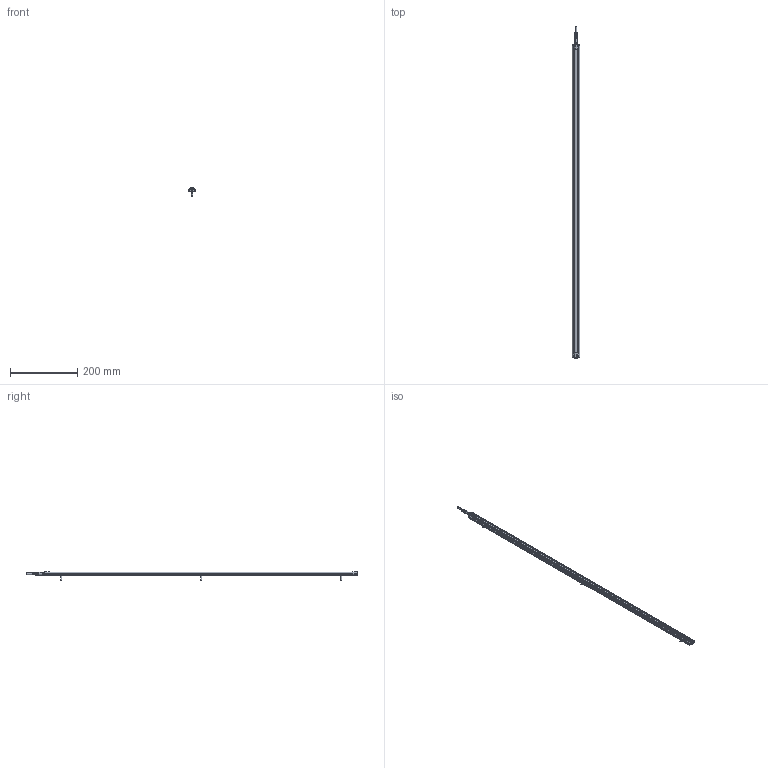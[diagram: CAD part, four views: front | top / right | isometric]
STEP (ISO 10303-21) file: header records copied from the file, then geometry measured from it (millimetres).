
FILE_DESCRIPTION (( 'STEP AP214' ), '1' );
FILE_NAME ('ILGA-B-K2-0930mm.STEP', '2026-04-24T22:55:30', ( '' ), ( '' ), 'SwSTEP 2.0', 'SolidWorks 2025', '' );
FILE_SCHEMA (( 'AUTOMOTIVE_DESIGN' ));
Length unit declared in the file: millimetre
Products named in the file (1): ILGA-B-K2-0930mm
Bounding box: 22.4 x 984.5 x 25.7 mm (x, y, z)
Surface area: 129375.8 mm2 (no closed solid volume)
Topology: 0 solids, 16 shells, 966 faces, 2516 edges, 1561 vertices
Faces by surface type: cylinder 399, plane 361, cone 84, bspline 56, torus 50, sphere 16
Entity records: 42561 total; most frequent: CARTESIAN_POINT 8657, ORIENTED_EDGE 4913, DIRECTION 4852, EDGE_CURVE 2464, AXIS2_PLACEMENT_3D 1860, VERTEX_POINT 1561, LINE 1132, VECTOR 1132
